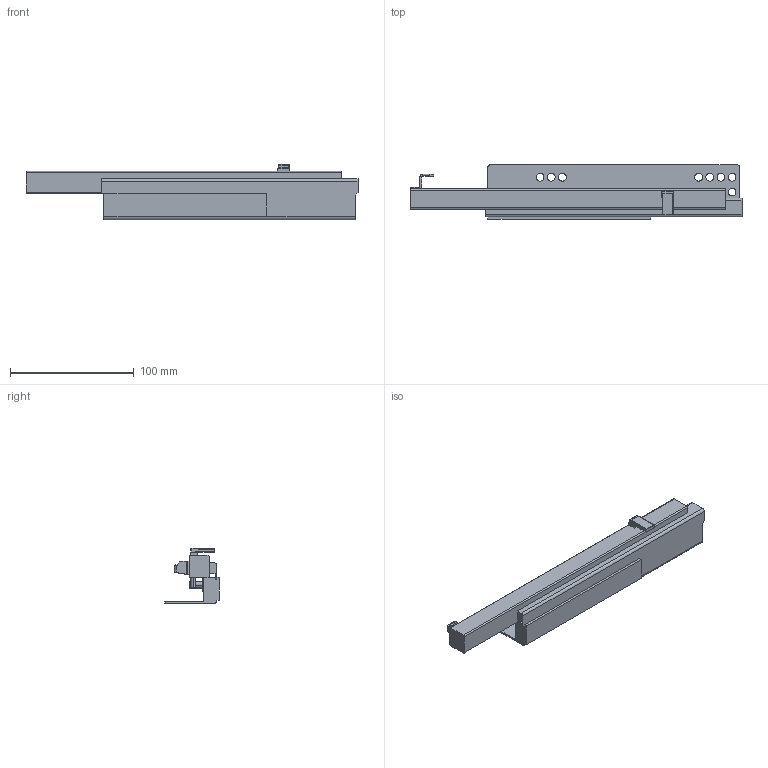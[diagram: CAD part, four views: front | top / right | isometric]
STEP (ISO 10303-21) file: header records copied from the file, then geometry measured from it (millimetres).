
FILE_DESCRIPTION (( 'STEP AP203' ), '1' );
FILE_NAME ('GG10270H-R-DTC3D-close.STEP', '2021-07-02T00:50:43', ( 'df' ), ( 'Microsoft' ), 'SwSTEP 2.0', 'SolidWorks 2018', '' );
FILE_SCHEMA (( 'CONFIG_CONTROL_DESIGN' ));
Length unit declared in the file: millimetre
Products named in the file (1): GG10270H-R-DTC3D-close
Bounding box: 268 x 44.1 x 44.73 mm (x, y, z)
Volume: 141160.3 mm3; surface area: 48019.9 mm2
Topology: 1 solids, 1 shells, 160 faces, 447 edges, 289 vertices
Faces by surface type: plane 76, cylinder 76, bspline 4, sphere 2, cone 2
Entity records: 5345 total; most frequent: CARTESIAN_POINT 1072, ORIENTED_EDGE 890, DIRECTION 871, EDGE_CURVE 445, AXIS2_PLACEMENT_3D 299, VERTEX_POINT 289, VECTOR 273, LINE 273
